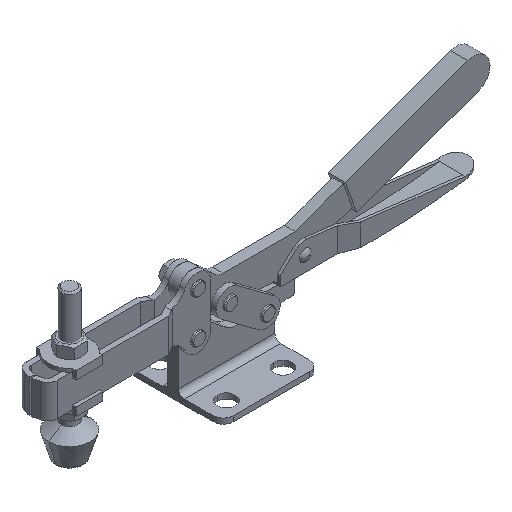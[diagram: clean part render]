
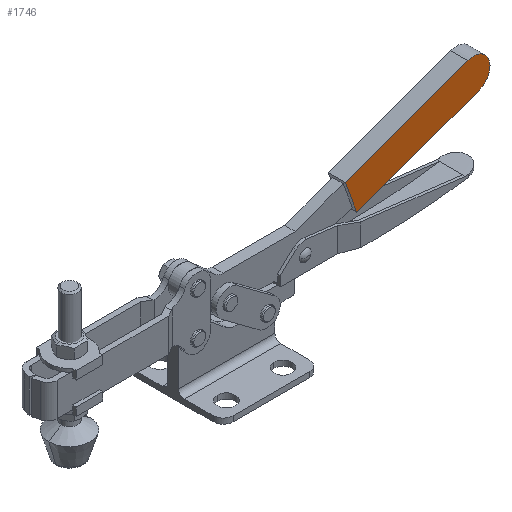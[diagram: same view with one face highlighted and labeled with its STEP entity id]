
A CAD part, isometric view. The second image highlights one B-rep face of the part: STEP entity #1746.
In plain terms, the highlighted planar face has unit normal (0, -1, 0).
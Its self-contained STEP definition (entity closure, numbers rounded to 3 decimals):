
#1702=CARTESIAN_POINT('Axis2P3D Location',(0.,-5.2,0.)) ;
#1707=CARTESIAN_POINT('Line Origine',(164.333,-5.2,56.691)) ;
#1711=CARTESIAN_POINT('Cartesian Point',(167.753,-5.2,47.294)) ;
#1713=CARTESIAN_POINT('Cartesian Point',(160.913,-5.2,66.088)) ;
#1716=CARTESIAN_POINT('Line Origine',(204.582,-5.2,60.699)) ;
#1720=CARTESIAN_POINT('Cartesian Point',(241.41,-5.2,74.103)) ;
#1724=CARTESIAN_POINT('Control Point',(234.57,-5.2,92.897)) ;
#1725=CARTESIAN_POINT('Control Point',(238.789,-5.2,94.432)) ;
#1726=CARTESIAN_POINT('Control Point',(243.803,-5.2,93.756)) ;
#1727=CARTESIAN_POINT('Control Point',(248.262,-5.2,90.382)) ;
#1728=CARTESIAN_POINT('Control Point',(250.283,-5.2,84.83)) ;
#1729=CARTESIAN_POINT('Control Point',(249.035,-5.2,79.38)) ;
#1730=CARTESIAN_POINT('Control Point',(245.629,-5.2,75.638)) ;
#1731=CARTESIAN_POINT('Control Point',(241.41,-5.2,74.103)) ;
#1732=CARTESIAN_POINT('Cartesian Point',(234.57,-5.2,92.897)) ;
#1735=CARTESIAN_POINT('Line Origine',(197.741,-5.2,79.492)) ;
#1703=DIRECTION('Axis2P3D Direction',(0.,1.,0.)) ;
#1704=DIRECTION('Axis2P3D XDirection',(0.,0.,-1.)) ;
#1708=DIRECTION('Vector Direction',(-0.342,0.,0.94)) ;
#1717=DIRECTION('Vector Direction',(-0.94,0.,-0.342)) ;
#1736=DIRECTION('Vector Direction',(0.94,0.,0.342)) ;
#1705=AXIS2_PLACEMENT_3D('Plane Axis2P3D',#1702,#1703,#1704) ;
#1741=ORIENTED_EDGE('Oriented Edge',*,*,#1715,.F.) ;
#1742=ORIENTED_EDGE('Oriented Edge',*,*,#1722,.F.) ;
#1743=ORIENTED_EDGE('Oriented Edge',*,*,#1734,.F.) ;
#1744=ORIENTED_EDGE('Oriented Edge',*,*,#1739,.F.) ;
#1709=VECTOR('Line Direction',#1708,1.) ;
#1718=VECTOR('Line Direction',#1717,1.) ;
#1737=VECTOR('Line Direction',#1736,1.) ;
#1746=ADVANCED_FACE('',(#1745),#1706,.F.) ;
#1723=B_SPLINE_CURVE_WITH_KNOTS('BSpline Curve',7,(#1724,#1725,#1726,#1727,#1728,#1729,#1730,#1731),.UNSPECIFIED.,.F.,.U.,(8,8),(0.,36.189),.UNSPECIFIED.) ;
#1715=EDGE_CURVE('',#1712,#1714,#1710,.T.) ;
#1722=EDGE_CURVE('',#1721,#1712,#1719,.T.) ;
#1734=EDGE_CURVE('',#1733,#1721,#1723,.T.) ;
#1739=EDGE_CURVE('',#1714,#1733,#1738,.T.) ;
#1740=EDGE_LOOP('Oriented Loop',(#1741,#1742,#1743,#1744)) ;
#1745=FACE_OUTER_BOUND('Face Bound',#1740,.T.) ;
#1710=LINE('Line',#1707,#1709) ;
#1719=LINE('Line',#1716,#1718) ;
#1738=LINE('Line',#1735,#1737) ;
#1706=PLANE('Plane',#1705) ;
#1712=VERTEX_POINT('Vertex Point',#1711) ;
#1714=VERTEX_POINT('Vertex Point',#1713) ;
#1721=VERTEX_POINT('Vertex Point',#1720) ;
#1733=VERTEX_POINT('Vertex Point',#1732) ;
